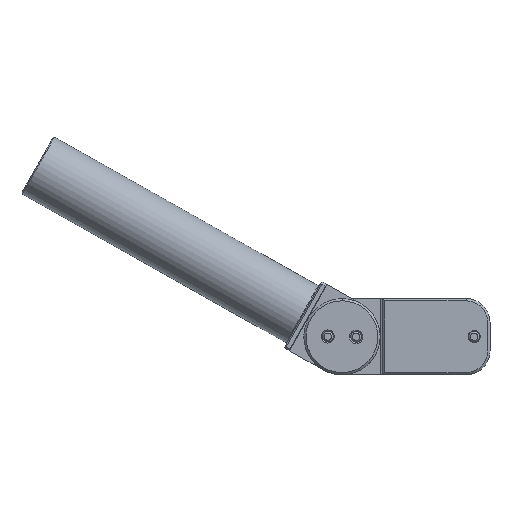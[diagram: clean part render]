
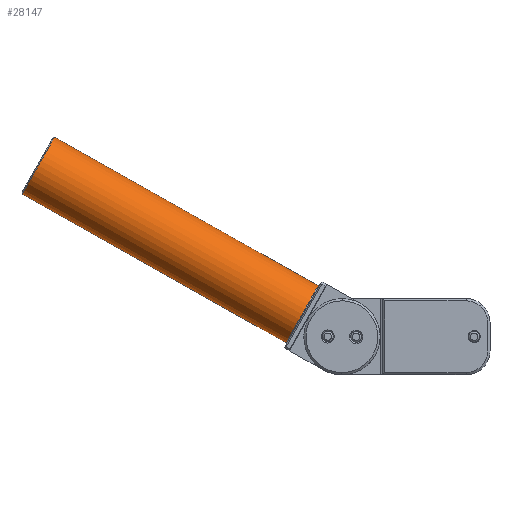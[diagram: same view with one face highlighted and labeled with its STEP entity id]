
A CAD part, front view. The second image highlights one B-rep face of the part: STEP entity #28147.
In plain terms, the highlighted cylindrical face has radius 15 mm (diameter 30 mm), a partial arc.
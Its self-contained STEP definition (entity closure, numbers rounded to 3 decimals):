
#352 = EDGE_CURVE ( 'NONE', #19515, #24441, #31591, .T. ) ;
#3239 = CARTESIAN_POINT ( 'NONE',  ( -27.402, 26.204, 23.379 ) ) ;
#6946 = EDGE_CURVE ( 'NONE', #34387, #24441, #19570, .T. ) ;
#7111 = AXIS2_PLACEMENT_3D ( 'NONE', #10446, #30959, #13410 ) ;
#8664 = ORIENTED_EDGE ( 'NONE', *, *, #352, .T. ) ;
#9312 = CARTESIAN_POINT ( 'NONE',  ( -163.222, 26.204, 65.498 ) ) ;
#10446 = CARTESIAN_POINT ( 'NONE',  ( -155.856, 26.204, 78.565 ) ) ;
#11687 = AXIS2_PLACEMENT_3D ( 'NONE', #37725, #23154, #34934 ) ;
#11946 = CARTESIAN_POINT ( 'NONE',  ( -42.133, 26.204, -2.755 ) ) ;
#12240 = DIRECTION ( 'NONE',  ( 0.871, 0., -0.491 ) ) ;
#12273 = LINE ( 'NONE', #9312, #19162 ) ;
#13410 = DIRECTION ( 'NONE',  ( -0.491, 0., -0.871 ) ) ;
#13945 = ORIENTED_EDGE ( 'NONE', *, *, #6946, .F. ) ;
#15283 = DIRECTION ( 'NONE',  ( 0.871, 0., -0.491 ) ) ;
#15730 = CARTESIAN_POINT ( 'NONE',  ( -163.222, 26.204, 65.498 ) ) ;
#16873 = ORIENTED_EDGE ( 'NONE', *, *, #24759, .F. ) ;
#17173 = EDGE_CURVE ( 'NONE', #20400, #19515, #12273, .T. ) ;
#18087 = FACE_OUTER_BOUND ( 'NONE', #33605, .T. ) ;
#19162 = VECTOR ( 'NONE', #12240, 1000. ) ;
#19515 = VERTEX_POINT ( 'NONE', #11946 ) ;
#19570 = LINE ( 'NONE', #35761, #27337 ) ;
#20256 = ORIENTED_EDGE ( 'NONE', *, *, #17173, .T. ) ;
#20400 = VERTEX_POINT ( 'NONE', #15730 ) ;
#22214 = CYLINDRICAL_SURFACE ( 'NONE', #11687, 15. ) ;
#23154 = DIRECTION ( 'NONE',  ( 0.871, 0., -0.491 ) ) ;
#24441 = VERTEX_POINT ( 'NONE', #3239 ) ;
#24759 = EDGE_CURVE ( 'NONE', #20400, #34387, #26713, .T. ) ;
#26713 = CIRCLE ( 'NONE', #7111, 15. ) ;
#27337 = VECTOR ( 'NONE', #15283, 1000. ) ;
#28144 = DIRECTION ( 'NONE',  ( 0., -1., 0. ) ) ;
#28147 = ADVANCED_FACE ( 'NONE', ( #18087 ), #22214, .T. ) ;
#28895 = CARTESIAN_POINT ( 'NONE',  ( -148.491, 26.204, 91.632 ) ) ;
#30959 = DIRECTION ( 'NONE',  ( -0.871, 0., 0.491 ) ) ;
#31591 = CIRCLE ( 'NONE', #33375, 15. ) ;
#32133 = DIRECTION ( 'NONE',  ( -0.871, 0., 0.491 ) ) ;
#32286 = CARTESIAN_POINT ( 'NONE',  ( -34.768, 26.204, 10.312 ) ) ;
#33375 = AXIS2_PLACEMENT_3D ( 'NONE', #32286, #32133, #28144 ) ;
#33605 = EDGE_LOOP ( 'NONE', ( #13945, #16873, #20256, #8664 ) ) ;
#34387 = VERTEX_POINT ( 'NONE', #28895 ) ;
#34934 = DIRECTION ( 'NONE',  ( -0.491, 0., -0.871 ) ) ;
#35761 = CARTESIAN_POINT ( 'NONE',  ( -148.491, 26.204, 91.632 ) ) ;
#37725 = CARTESIAN_POINT ( 'NONE',  ( -155.856, 26.204, 78.565 ) ) ;
